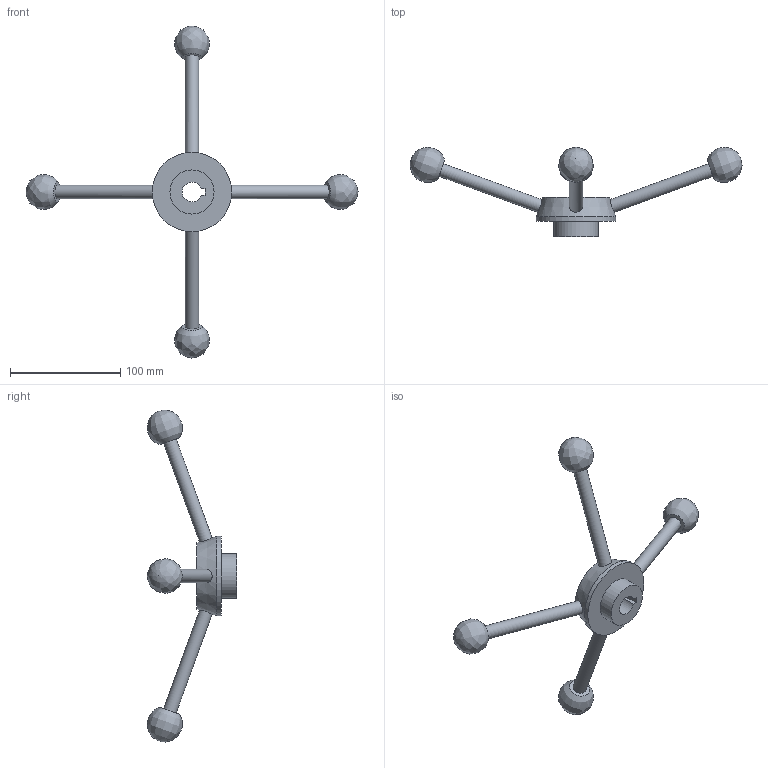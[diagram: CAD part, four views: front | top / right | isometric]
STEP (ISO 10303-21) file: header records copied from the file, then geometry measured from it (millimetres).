
FILE_DESCRIPTION( ( 'STEP AP203' ), '1' );
FILE_NAME( 'C:/Temp/Ganter_Step_05_03_2020/data/2_1/gn_213/gn_213_k/Turret lever GN 213-72-K18.stp', '2020-03-05T11:51:11', ( 'License CC BY-ND 4.0' ), ( 'CADENAS' ), ' ', 'PARTsolutions', ' ' );
FILE_SCHEMA( ( 'CONFIG_CONTROL_DESIGN' ) );
Length unit declared in the file: millimetre
Products named in the file (1): _Turret lever GN 213-72-K18
Bounding box: 300.57 x 81 x 300.57 mm (x, y, z)
Volume: 196226 mm3; surface area: 41492.7 mm2
Topology: 1 solids, 1 shells, 22 faces, 50 edges, 34 vertices
Faces by surface type: plane 10, cylinder 7, bspline 4, cone 1
Full cylindrical faces by diameter (mm): 12 x4, 40 x1, 72 x1
Entity records: 964 total; most frequent: CARTESIAN_POINT 521, DIRECTION 78, ORIENTED_EDGE 58, EDGE_LOOP 40, AXIS2_PLACEMENT_3D 34, VERTEX_POINT 29, EDGE_CURVE 29, FACE_OUTER_BOUND 28
